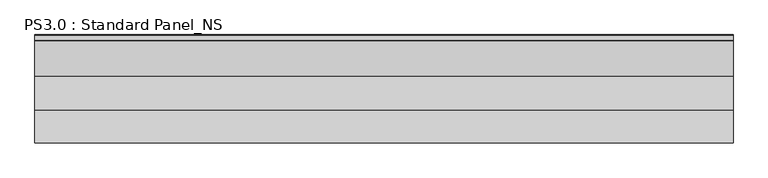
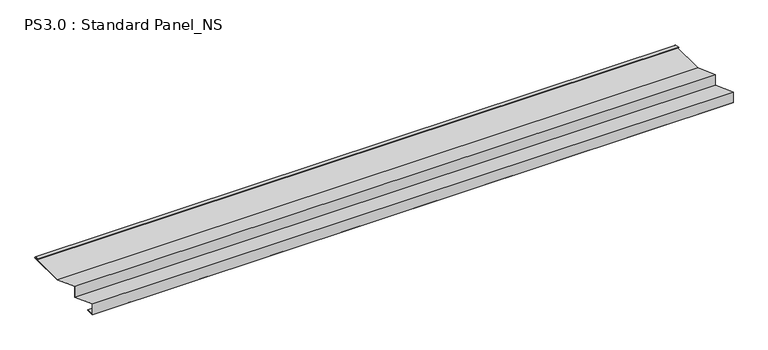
"""IFC4 building model written with IfcOpenShell, lengths in millimetres: proxy geometry, PS3.0 : Standard Panel_NS."""

from ifc_helpers import new_model, si_unit, point, frame, frame_2d, origin, place, context, project, spatial, polyline, circle_curve, trimmed, segment, composite_curve, outline, extrude, source, transform, mapped, element, save


def ps3_0_standard_panel_ns_63d88878(model_context):
    return source(origin(), model_context, "Body", "SweptSolid", [
        extrude(outline(composite_curve([segment(polyline([(0.0, 38.0), (100.0, 0.0), (100.0, 38.0), (200.0, 0.0), (324.8317866, 0.0)]), True, "CONTINUOUS"), segment(trimmed(circle_curve(frame_2d((324.3094696, 0.9153551)), 1.0538928), [point((324.8317866, 0.0))], [point((324.8448691, 1.8231201))], True, "CARTESIAN"), True, "CONTINUOUS"), segment(polyline([(324.8448691, 1.8231201), (308.5989911, 4.94103), (308.7874714, 5.923107), (325.1748462, 2.778041)]), True, "CONTINUOUS"), segment(trimmed(circle_curve(frame_2d((324.3094696, 0.9153551)), 2.0538928), [point((325.1748462, 2.778041))], [point((325.0510156, -1.0))], False, "CARTESIAN"), True, "CONTINUOUS"), segment(polyline([(325.0510156, -1.0), (199.8164044, -1.0), (101.0, 36.5502337), (101.0, -1.4497663), (1.0, 36.5502337), (1.0, 1.0), (25.0, 1.0), (25.0, 0.0), (0.0, 0.0), (0.0, 38.0)]), True, "CONTINUOUS")], self_intersect=False)), frame((0.0, 0.0, 0.0), z_axis=(1.0, 0.0, 0.0), x_axis=(0.0, 1.0, 0.0)), (0.0, 0.0, 1.0), 2100.0),
    ])


if __name__ == "__main__":
    model = new_model("IFC4")
    model_context = context("Model", 3, world=origin())
    ifc_project = project(units=[si_unit("LENGTHUNIT", "METRE", prefix="MILLI")], contexts=[model_context])
    site = spatial("IfcSite", under=ifc_project)
    building = spatial("IfcBuilding", under=site)
    placement = place(None, origin())
    ps3_0_standard_panel_ns_shape = ps3_0_standard_panel_ns_63d88878(model_context)
    element("IfcBuildingElementProxy", 1, Name="PS3.0 : Standard Panel_NS", ObjectType="PS3.0 : Standard Panel_NS", at=placement, inside=building, context=model_context, shape_type="MappedRepresentation", body=[
        mapped(ps3_0_standard_panel_ns_shape, transform((0.0, 0.0, 0.0), x_axis=(1.0, 0.0, 0.0), y_axis=(0.0, 1.0, 0.0), z_axis=(0.0, 0.0, 1.0))),
    ])
    save(model, "model.ifc")
